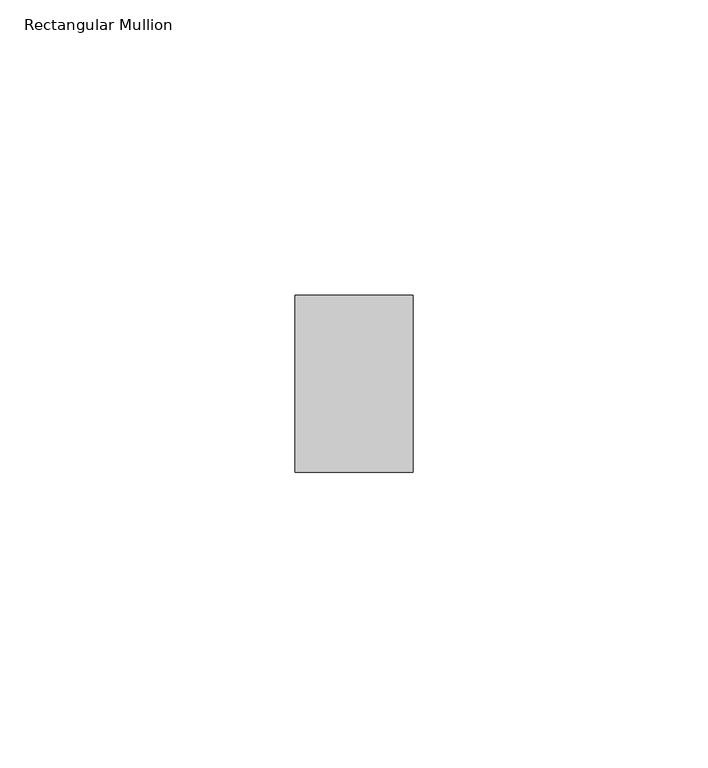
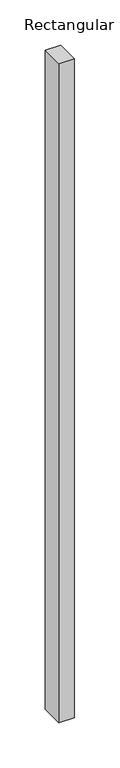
"""IFC4 building model written with IfcOpenShell, lengths in millimetres: member geometry, Rectangular Mullion : ARQ_TV_MULL_30x20mm."""

from ifc_helpers import new_model, si_unit, frame, origin, place, context, project, spatial, polyline, outline, extrude, source, transform, mapped, element, save


def rectangular_mullion_435ed243(model_context):
    return source(origin(), model_context, "Body", "SweptSolid", [
        extrude(outline(polyline([(10.0, 15.0), (10.0, -15.0), (-10.0, -15.0), (-10.0, 15.0), (10.0, 15.0)])), frame((0.0, 0.0, -890.2043467), z_axis=(0.0, 0.0, 1.0), x_axis=(1.0, 0.0, 0.0)), (0.0, 0.0, 1.0), 890.2043467),
    ])


if __name__ == "__main__":
    model = new_model("IFC4")
    model_context = context("Model", 3, world=origin())
    ifc_project = project(units=[si_unit("LENGTHUNIT", "METRE", prefix="MILLI")], contexts=[model_context])
    site = spatial("IfcSite", under=ifc_project)
    building = spatial("IfcBuilding", under=site)
    placement = place(None, origin())
    rectangular_mullion_shape = rectangular_mullion_435ed243(model_context)
    element("IfcMember", 1, ObjectType="Rectangular Mullion : ARQ_TV_MULL_30x20mm", at=placement, inside=building, context=model_context, shape_type="MappedRepresentation", body=[
        mapped(rectangular_mullion_shape, transform((0.0, 0.0, 0.0), x_axis=(1.0, 0.0, 0.0), y_axis=(0.0, 1.0, 0.0), z_axis=(0.0, 0.0, 1.0))),
    ])
    save(model, "model.ifc")
